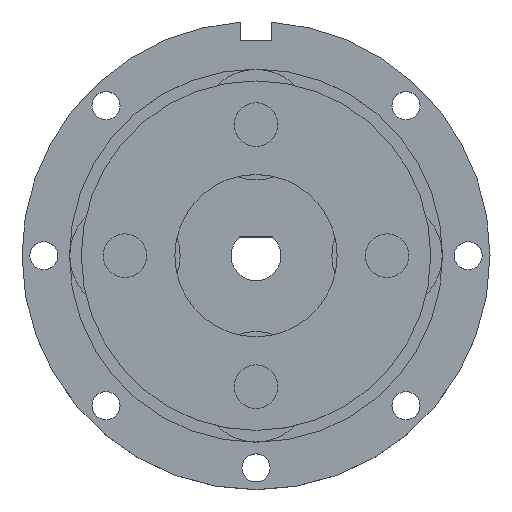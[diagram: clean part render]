
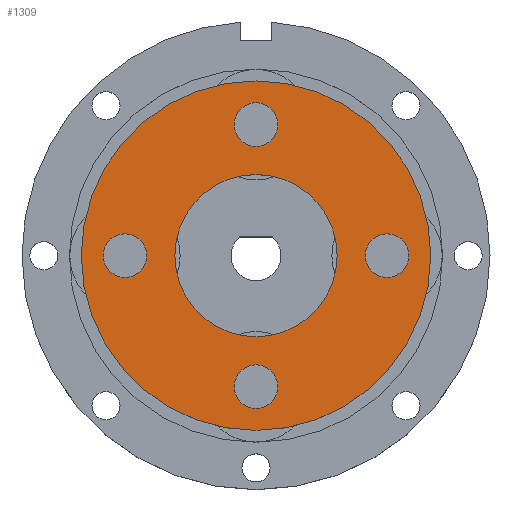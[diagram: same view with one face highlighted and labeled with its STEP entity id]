
A CAD part, top view. The second image highlights one B-rep face of the part: STEP entity #1309.
In plain terms, the highlighted planar face has unit normal (0, 0, 1).
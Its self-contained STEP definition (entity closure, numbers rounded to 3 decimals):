
#145 = CIRCLE ( 'NONE', #3450, 3.5 ) ;
#146 = ORIENTED_EDGE ( 'NONE', *, *, #4777, .F. ) ;
#149 = DIRECTION ( 'NONE',  ( 1., 0., 0. ) ) ;
#396 = DIRECTION ( 'NONE',  ( 1., 0., 0. ) ) ;
#477 = CARTESIAN_POINT ( 'NONE',  ( 0., 21., 8.35 ) ) ;
#519 = VERTEX_POINT ( 'NONE', #8108 ) ;
#545 = ORIENTED_EDGE ( 'NONE', *, *, #1230, .F. ) ;
#680 = FACE_OUTER_BOUND ( 'NONE', #7299, .T. ) ;
#697 = DIRECTION ( 'NONE',  ( 0., 0., 1. ) ) ;
#701 = AXIS2_PLACEMENT_3D ( 'NONE', #7935, #3855, #5244 ) ;
#1063 = EDGE_CURVE ( 'NONE', #6321, #7000, #7463, .T. ) ;
#1070 = DIRECTION ( 'NONE',  ( 0., 0., 1. ) ) ;
#1130 = DIRECTION ( 'NONE',  ( 0., -1., 0. ) ) ;
#1230 = EDGE_CURVE ( 'NONE', #7000, #6321, #2749, .T. ) ;
#1265 = DIRECTION ( 'NONE',  ( 1., 0., 0. ) ) ;
#1297 = CARTESIAN_POINT ( 'NONE',  ( 3.5, -21., 8.35 ) ) ;
#1309 = ADVANCED_FACE ( 'NONE', ( #1399, #8711, #8082, #7399, #680, #3953 ), #4717, .T. ) ;
#1399 = FACE_BOUND ( 'NONE', #5223, .T. ) ;
#1467 = ORIENTED_EDGE ( 'NONE', *, *, #1600, .F. ) ;
#1503 = AXIS2_PLACEMENT_3D ( 'NONE', #7627, #4174, #3544 ) ;
#1592 = CARTESIAN_POINT ( 'NONE',  ( 21., 0., 8.35 ) ) ;
#1600 = EDGE_CURVE ( 'NONE', #8528, #3121, #7154, .T. ) ;
#1670 = CARTESIAN_POINT ( 'NONE',  ( -21., -3.5, 8.35 ) ) ;
#1725 = EDGE_CURVE ( 'NONE', #4588, #5150, #5359, .T. ) ;
#1817 = CARTESIAN_POINT ( 'NONE',  ( 21., 0., 8.35 ) ) ;
#1827 = EDGE_LOOP ( 'NONE', ( #4989, #2664 ) ) ;
#1854 = DIRECTION ( 'NONE',  ( 0., 0., 1. ) ) ;
#2151 = CIRCLE ( 'NONE', #2435, 3.5 ) ;
#2193 = ORIENTED_EDGE ( 'NONE', *, *, #1725, .F. ) ;
#2207 = CARTESIAN_POINT ( 'NONE',  ( 0., 21., 8.35 ) ) ;
#2228 = CARTESIAN_POINT ( 'NONE',  ( -13., 0., 8.35 ) ) ;
#2300 = AXIS2_PLACEMENT_3D ( 'NONE', #6504, #7214, #396 ) ;
#2324 = ORIENTED_EDGE ( 'NONE', *, *, #2753, .F. ) ;
#2435 = AXIS2_PLACEMENT_3D ( 'NONE', #8549, #7190, #4415 ) ;
#2444 = CIRCLE ( 'NONE', #3443, 28. ) ;
#2601 = ORIENTED_EDGE ( 'NONE', *, *, #4080, .F. ) ;
#2664 = ORIENTED_EDGE ( 'NONE', *, *, #4500, .F. ) ;
#2749 = CIRCLE ( 'NONE', #5185, 3.5 ) ;
#2753 = EDGE_CURVE ( 'NONE', #5150, #4588, #7844, .T. ) ;
#3005 = EDGE_CURVE ( 'NONE', #4070, #7612, #3269, .T. ) ;
#3121 = VERTEX_POINT ( 'NONE', #1670 ) ;
#3161 = CARTESIAN_POINT ( 'NONE',  ( 3.5, 21., 8.35 ) ) ;
#3231 = DIRECTION ( 'NONE',  ( 1., 0., 0. ) ) ;
#3249 = EDGE_CURVE ( 'NONE', #8269, #3290, #3991, .T. ) ;
#3269 = CIRCLE ( 'NONE', #6143, 3.5 ) ;
#3290 = VERTEX_POINT ( 'NONE', #8745 ) ;
#3373 = ORIENTED_EDGE ( 'NONE', *, *, #1063, .F. ) ;
#3410 = AXIS2_PLACEMENT_3D ( 'NONE', #7265, #1854, #5167 ) ;
#3443 = AXIS2_PLACEMENT_3D ( 'NONE', #5872, #7259, #3231 ) ;
#3450 = AXIS2_PLACEMENT_3D ( 'NONE', #477, #1070, #7874 ) ;
#3467 = AXIS2_PLACEMENT_3D ( 'NONE', #6113, #6823, #1265 ) ;
#3544 = DIRECTION ( 'NONE',  ( -1., 0., 0. ) ) ;
#3570 = CARTESIAN_POINT ( 'NONE',  ( 0., 0., 8.35 ) ) ;
#3730 = EDGE_LOOP ( 'NONE', ( #146, #8196 ) ) ;
#3741 = AXIS2_PLACEMENT_3D ( 'NONE', #1592, #6416, #5620 ) ;
#3855 = DIRECTION ( 'NONE',  ( 0., 0., 1. ) ) ;
#3909 = EDGE_CURVE ( 'NONE', #5058, #519, #5008, .T. ) ;
#3953 = FACE_BOUND ( 'NONE', #1827, .T. ) ;
#3991 = CIRCLE ( 'NONE', #701, 28. ) ;
#4070 = VERTEX_POINT ( 'NONE', #3161 ) ;
#4080 = EDGE_CURVE ( 'NONE', #3121, #8528, #2151, .T. ) ;
#4174 = DIRECTION ( 'NONE',  ( 0., 0., 1. ) ) ;
#4385 = EDGE_CURVE ( 'NONE', #3290, #8269, #2444, .T. ) ;
#4415 = DIRECTION ( 'NONE',  ( 0., 1., 0. ) ) ;
#4500 = EDGE_CURVE ( 'NONE', #519, #5058, #6170, .T. ) ;
#4588 = VERTEX_POINT ( 'NONE', #1297 ) ;
#4717 = PLANE ( 'NONE',  #3467 ) ;
#4777 = EDGE_CURVE ( 'NONE', #7612, #4070, #145, .T. ) ;
#4853 = EDGE_LOOP ( 'NONE', ( #2193, #2324 ) ) ;
#4887 = EDGE_LOOP ( 'NONE', ( #545, #3373 ) ) ;
#4910 = CARTESIAN_POINT ( 'NONE',  ( -28., 0., 8.35 ) ) ;
#4989 = ORIENTED_EDGE ( 'NONE', *, *, #3909, .F. ) ;
#5008 = CIRCLE ( 'NONE', #7143, 13. ) ;
#5058 = VERTEX_POINT ( 'NONE', #2228 ) ;
#5150 = VERTEX_POINT ( 'NONE', #6890 ) ;
#5167 = DIRECTION ( 'NONE',  ( -1., 0., 0. ) ) ;
#5185 = AXIS2_PLACEMENT_3D ( 'NONE', #1817, #8676, #1130 ) ;
#5223 = EDGE_LOOP ( 'NONE', ( #2601, #1467 ) ) ;
#5244 = DIRECTION ( 'NONE',  ( 1., 0., 0. ) ) ;
#5359 = CIRCLE ( 'NONE', #1503, 3.5 ) ;
#5423 = DIRECTION ( 'NONE',  ( 0., 1., 0. ) ) ;
#5425 = CARTESIAN_POINT ( 'NONE',  ( -21., 3.5, 8.35 ) ) ;
#5469 = CARTESIAN_POINT ( 'NONE',  ( -21., 0., 8.35 ) ) ;
#5620 = DIRECTION ( 'NONE',  ( 0., -1., 0. ) ) ;
#5808 = CARTESIAN_POINT ( 'NONE',  ( 21., -3.5, 8.35 ) ) ;
#5872 = CARTESIAN_POINT ( 'NONE',  ( 0., 0., 8.35 ) ) ;
#6104 = ORIENTED_EDGE ( 'NONE', *, *, #4385, .T. ) ;
#6113 = CARTESIAN_POINT ( 'NONE',  ( 0., 0., 8.35 ) ) ;
#6143 = AXIS2_PLACEMENT_3D ( 'NONE', #2207, #6281, #6993 ) ;
#6170 = CIRCLE ( 'NONE', #2300, 13. ) ;
#6281 = DIRECTION ( 'NONE',  ( 0., 0., 1. ) ) ;
#6321 = VERTEX_POINT ( 'NONE', #5808 ) ;
#6416 = DIRECTION ( 'NONE',  ( 0., 0., 1. ) ) ;
#6504 = CARTESIAN_POINT ( 'NONE',  ( 0., 0., 8.35 ) ) ;
#6533 = CARTESIAN_POINT ( 'NONE',  ( -3.5, 21., 8.35 ) ) ;
#6823 = DIRECTION ( 'NONE',  ( 0., 0., 1. ) ) ;
#6890 = CARTESIAN_POINT ( 'NONE',  ( -3.5, -21., 8.35 ) ) ;
#6993 = DIRECTION ( 'NONE',  ( 1., 0., 0. ) ) ;
#7000 = VERTEX_POINT ( 'NONE', #7087 ) ;
#7087 = CARTESIAN_POINT ( 'NONE',  ( 21., 3.5, 8.35 ) ) ;
#7143 = AXIS2_PLACEMENT_3D ( 'NONE', #3570, #697, #149 ) ;
#7154 = CIRCLE ( 'NONE', #8171, 3.5 ) ;
#7190 = DIRECTION ( 'NONE',  ( 0., 0., 1. ) ) ;
#7214 = DIRECTION ( 'NONE',  ( 0., 0., 1. ) ) ;
#7259 = DIRECTION ( 'NONE',  ( 0., 0., 1. ) ) ;
#7265 = CARTESIAN_POINT ( 'NONE',  ( 0., -21., 8.35 ) ) ;
#7299 = EDGE_LOOP ( 'NONE', ( #8255, #6104 ) ) ;
#7399 = FACE_BOUND ( 'NONE', #3730, .T. ) ;
#7463 = CIRCLE ( 'NONE', #3741, 3.5 ) ;
#7612 = VERTEX_POINT ( 'NONE', #6533 ) ;
#7627 = CARTESIAN_POINT ( 'NONE',  ( 0., -21., 8.35 ) ) ;
#7844 = CIRCLE ( 'NONE', #3410, 3.5 ) ;
#7874 = DIRECTION ( 'NONE',  ( 1., 0., 0. ) ) ;
#7935 = CARTESIAN_POINT ( 'NONE',  ( 0., 0., 8.35 ) ) ;
#8078 = DIRECTION ( 'NONE',  ( 0., 0., 1. ) ) ;
#8082 = FACE_BOUND ( 'NONE', #4887, .T. ) ;
#8108 = CARTESIAN_POINT ( 'NONE',  ( 13., 0., 8.35 ) ) ;
#8171 = AXIS2_PLACEMENT_3D ( 'NONE', #5469, #8078, #5423 ) ;
#8196 = ORIENTED_EDGE ( 'NONE', *, *, #3005, .F. ) ;
#8255 = ORIENTED_EDGE ( 'NONE', *, *, #3249, .T. ) ;
#8269 = VERTEX_POINT ( 'NONE', #4910 ) ;
#8528 = VERTEX_POINT ( 'NONE', #5425 ) ;
#8549 = CARTESIAN_POINT ( 'NONE',  ( -21., 0., 8.35 ) ) ;
#8676 = DIRECTION ( 'NONE',  ( 0., 0., 1. ) ) ;
#8711 = FACE_BOUND ( 'NONE', #4853, .T. ) ;
#8745 = CARTESIAN_POINT ( 'NONE',  ( 28., 0., 8.35 ) ) ;
